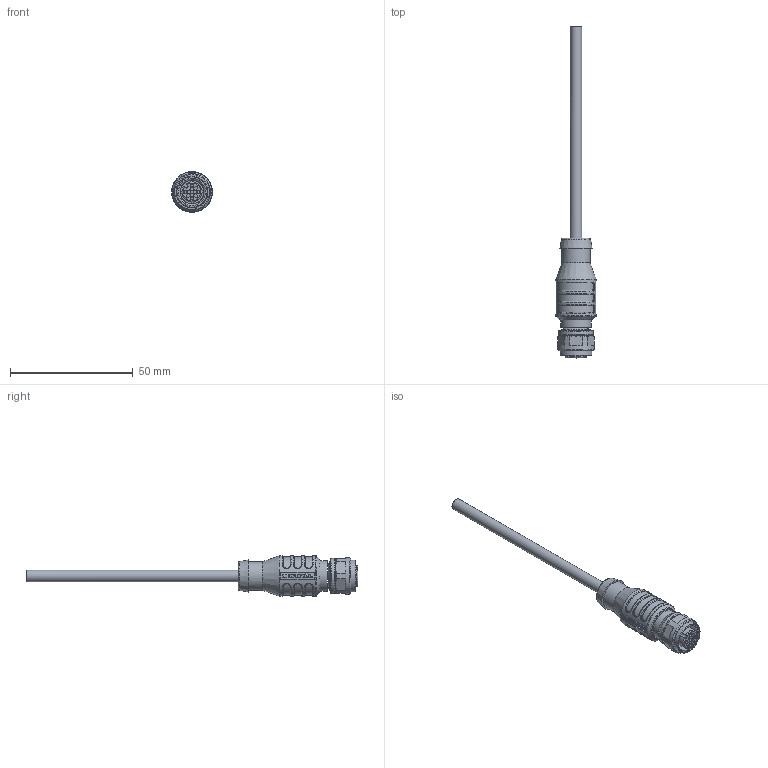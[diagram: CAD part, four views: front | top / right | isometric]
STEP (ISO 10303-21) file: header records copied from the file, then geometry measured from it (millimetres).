
FILE_DESCRIPTION (( 'STEP AP203' ), '1' );
FILE_NAME ('RKC4T-P7X2.STEP', '2019-02-20T05:41:25', ( 'User' ), ( '' ), 'SwSTEP 2.0', 'SolidWorks 2018', '' );
FILE_SCHEMA (( 'CONFIG_CONTROL_DESIGN' ));
Length unit declared in the file: millimetre
Products named in the file (1): RKC4T-P7X2
Bounding box: 16.5 x 135.03 x 16.49 mm (x, y, z)
Surface area: 6300.9 mm2 (no closed solid volume)
Topology: 0 solids, 5 shells, 251 faces, 748 edges, 525 vertices
Faces by surface type: plane 118, cylinder 62, bspline 55, cone 13, torus 3
Full cylindrical faces by diameter (mm): 1.1 x4, 1.5 x5, 1.8 x1, 3.5 x1, 4.7 x1, 9.6 x1, 11.6 x1, 12.3 x1, 12.4 x1, 12.5 x1, 13 x1, 13.2 x1, 14.25 x1, 15 x1, 16.5 x1
Entity records: 13509 total; most frequent: CARTESIAN_POINT 8640, ORIENTED_EDGE 1239, EDGE_CURVE 689, B_SPLINE_CURVE_WITH_KNOTS 645, VERTEX_POINT 501, DIRECTION 392, EDGE_LOOP 325, FACE_OUTER_BOUND 278
